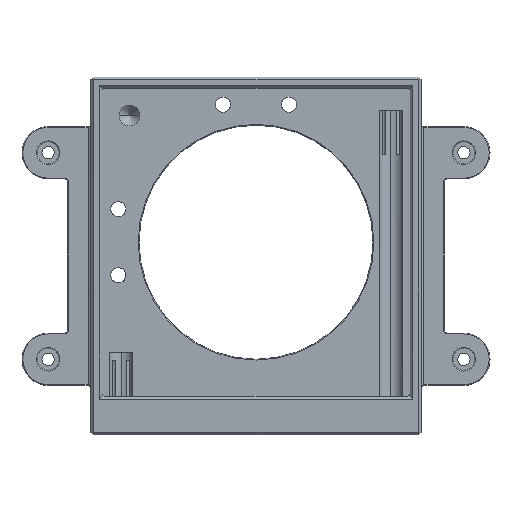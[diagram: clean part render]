
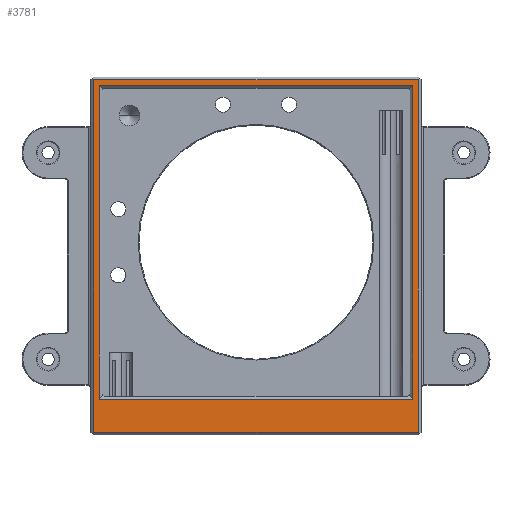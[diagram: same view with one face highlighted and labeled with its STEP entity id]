
A CAD part, top view. The second image highlights one B-rep face of the part: STEP entity #3781.
In plain terms, the highlighted planar face has unit normal (0, 0, 1).
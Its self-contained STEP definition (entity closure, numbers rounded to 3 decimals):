
#27 = VERTEX_POINT ( 'NONE', #3576 ) ;
#80 = PLANE ( 'NONE',  #1931 ) ;
#151 = ORIENTED_EDGE ( 'NONE', *, *, #2569, .T. ) ;
#254 = CARTESIAN_POINT ( 'NONE',  ( 57., -51., 15. ) ) ;
#550 = EDGE_LOOP ( 'NONE', ( #6558, #2078, #7257, #1449 ) ) ;
#565 = FACE_OUTER_BOUND ( 'NONE', #1387, .T. ) ;
#573 = EDGE_CURVE ( 'NONE', #6257, #7461, #1764, .T. ) ;
#578 = CARTESIAN_POINT ( 'NONE',  ( -56., -52., 15. ) ) ;
#605 = DIRECTION ( 'NONE',  ( 1., 0., 0. ) ) ;
#1048 = CARTESIAN_POINT ( 'NONE',  ( 56., 62., 15. ) ) ;
#1198 = CARTESIAN_POINT ( 'NONE',  ( -60., 64., 15. ) ) ;
#1269 = VECTOR ( 'NONE', #6012, 1000. ) ;
#1296 = CARTESIAN_POINT ( 'NONE',  ( 60., -64., 15. ) ) ;
#1311 = VECTOR ( 'NONE', #5108, 1000. ) ;
#1387 = EDGE_LOOP ( 'NONE', ( #5209, #2161, #2429, #151 ) ) ;
#1449 = ORIENTED_EDGE ( 'NONE', *, *, #6610, .T. ) ;
#1591 = LINE ( 'NONE', #1048, #3646 ) ;
#1614 = VECTOR ( 'NONE', #2902, 1000. ) ;
#1619 = CARTESIAN_POINT ( 'NONE',  ( -59., -65., 15. ) ) ;
#1697 = DIRECTION ( 'NONE',  ( -1., 0., 0. ) ) ;
#1705 = LINE ( 'NONE', #2316, #6269 ) ;
#1764 = LINE ( 'NONE', #5249, #1614 ) ;
#1896 = CARTESIAN_POINT ( 'NONE',  ( -59., -64., 15. ) ) ;
#1931 = AXIS2_PLACEMENT_3D ( 'NONE', #2882, #3495, #605 ) ;
#2078 = ORIENTED_EDGE ( 'NONE', *, *, #6143, .T. ) ;
#2161 = ORIENTED_EDGE ( 'NONE', *, *, #3290, .T. ) ;
#2296 = LINE ( 'NONE', #578, #7510 ) ;
#2316 = CARTESIAN_POINT ( 'NONE',  ( 59., 65., 15. ) ) ;
#2405 = CARTESIAN_POINT ( 'NONE',  ( 57., -52., 15. ) ) ;
#2429 = ORIENTED_EDGE ( 'NONE', *, *, #5269, .T. ) ;
#2569 = EDGE_CURVE ( 'NONE', #27, #2574, #5777, .T. ) ;
#2574 = VERTEX_POINT ( 'NONE', #4010 ) ;
#2750 = VERTEX_POINT ( 'NONE', #3403 ) ;
#2882 = CARTESIAN_POINT ( 'NONE',  ( 0., 0., 15. ) ) ;
#2902 = DIRECTION ( 'NONE',  ( 0., 1., 0. ) ) ;
#2982 = CARTESIAN_POINT ( 'NONE',  ( -57., 62., 15. ) ) ;
#3290 = EDGE_CURVE ( 'NONE', #3821, #4968, #4679, .T. ) ;
#3403 = CARTESIAN_POINT ( 'NONE',  ( 57., 62., 15. ) ) ;
#3495 = DIRECTION ( 'NONE',  ( 0., 0., 1. ) ) ;
#3576 = CARTESIAN_POINT ( 'NONE',  ( 59., 64., 15. ) ) ;
#3646 = VECTOR ( 'NONE', #3907, 1000. ) ;
#3781 = ADVANCED_FACE ( 'NONE', ( #5161, #565 ), #80, .T. ) ;
#3821 = VERTEX_POINT ( 'NONE', #1896 ) ;
#3907 = DIRECTION ( 'NONE',  ( 1., 0., 0. ) ) ;
#4010 = CARTESIAN_POINT ( 'NONE',  ( -59., 64., 15. ) ) ;
#4057 = DIRECTION ( 'NONE',  ( 0., 1., 0. ) ) ;
#4503 = LINE ( 'NONE', #1619, #1311 ) ;
#4569 = DIRECTION ( 'NONE',  ( -1., 0., 0. ) ) ;
#4679 = LINE ( 'NONE', #1296, #5484 ) ;
#4968 = VERTEX_POINT ( 'NONE', #5981 ) ;
#5108 = DIRECTION ( 'NONE',  ( 0., -1., 0. ) ) ;
#5161 = FACE_BOUND ( 'NONE', #550, .T. ) ;
#5209 = ORIENTED_EDGE ( 'NONE', *, *, #5339, .T. ) ;
#5249 = CARTESIAN_POINT ( 'NONE',  ( -57., 61., 15. ) ) ;
#5269 = EDGE_CURVE ( 'NONE', #4968, #27, #1705, .T. ) ;
#5339 = EDGE_CURVE ( 'NONE', #2574, #3821, #4503, .T. ) ;
#5484 = VECTOR ( 'NONE', #6339, 1000. ) ;
#5777 = LINE ( 'NONE', #1198, #6372 ) ;
#5981 = CARTESIAN_POINT ( 'NONE',  ( 59., -64., 15. ) ) ;
#6012 = DIRECTION ( 'NONE',  ( 0., -1., 0. ) ) ;
#6143 = EDGE_CURVE ( 'NONE', #7461, #2750, #1591, .T. ) ;
#6257 = VERTEX_POINT ( 'NONE', #6434 ) ;
#6269 = VECTOR ( 'NONE', #4057, 1000. ) ;
#6339 = DIRECTION ( 'NONE',  ( 1., 0., 0. ) ) ;
#6372 = VECTOR ( 'NONE', #1697, 1000. ) ;
#6434 = CARTESIAN_POINT ( 'NONE',  ( -57., -52., 15. ) ) ;
#6558 = ORIENTED_EDGE ( 'NONE', *, *, #573, .T. ) ;
#6589 = LINE ( 'NONE', #254, #1269 ) ;
#6610 = EDGE_CURVE ( 'NONE', #6725, #6257, #2296, .T. ) ;
#6725 = VERTEX_POINT ( 'NONE', #2405 ) ;
#7124 = EDGE_CURVE ( 'NONE', #2750, #6725, #6589, .T. ) ;
#7257 = ORIENTED_EDGE ( 'NONE', *, *, #7124, .T. ) ;
#7461 = VERTEX_POINT ( 'NONE', #2982 ) ;
#7510 = VECTOR ( 'NONE', #4569, 1000. ) ;
